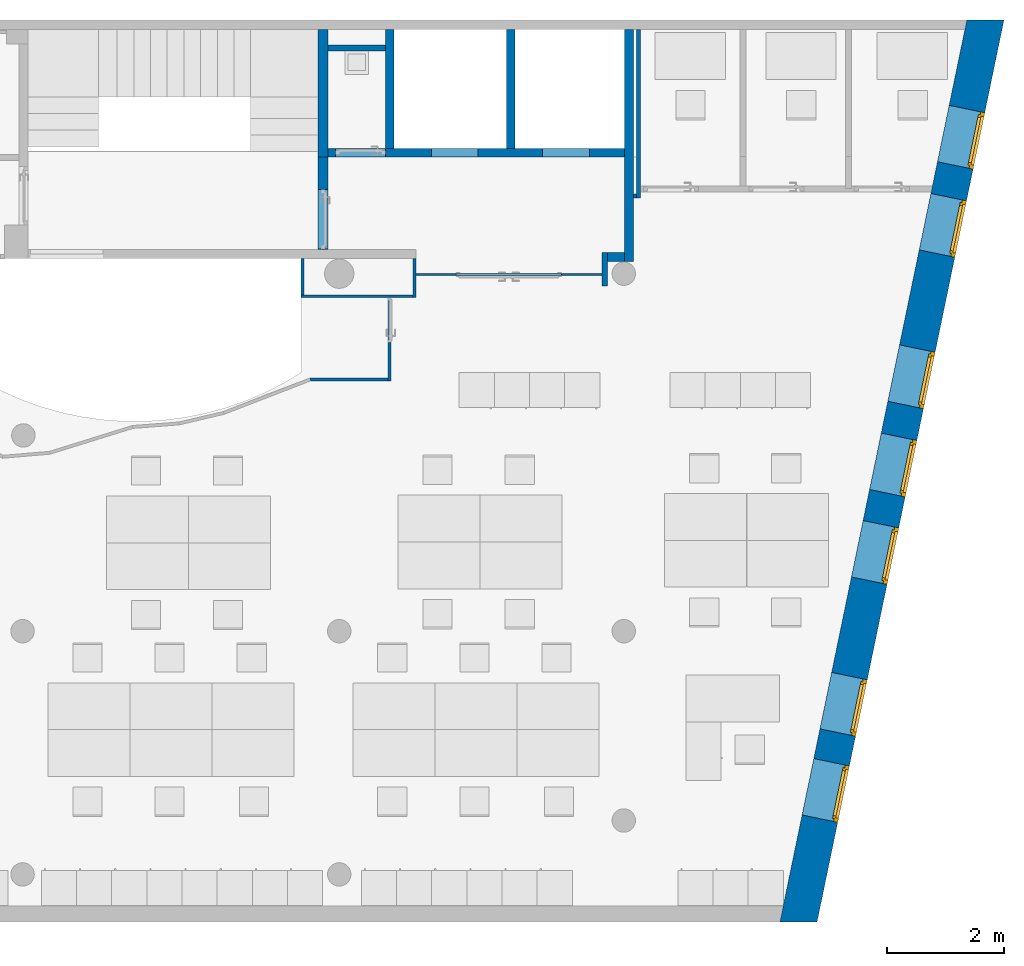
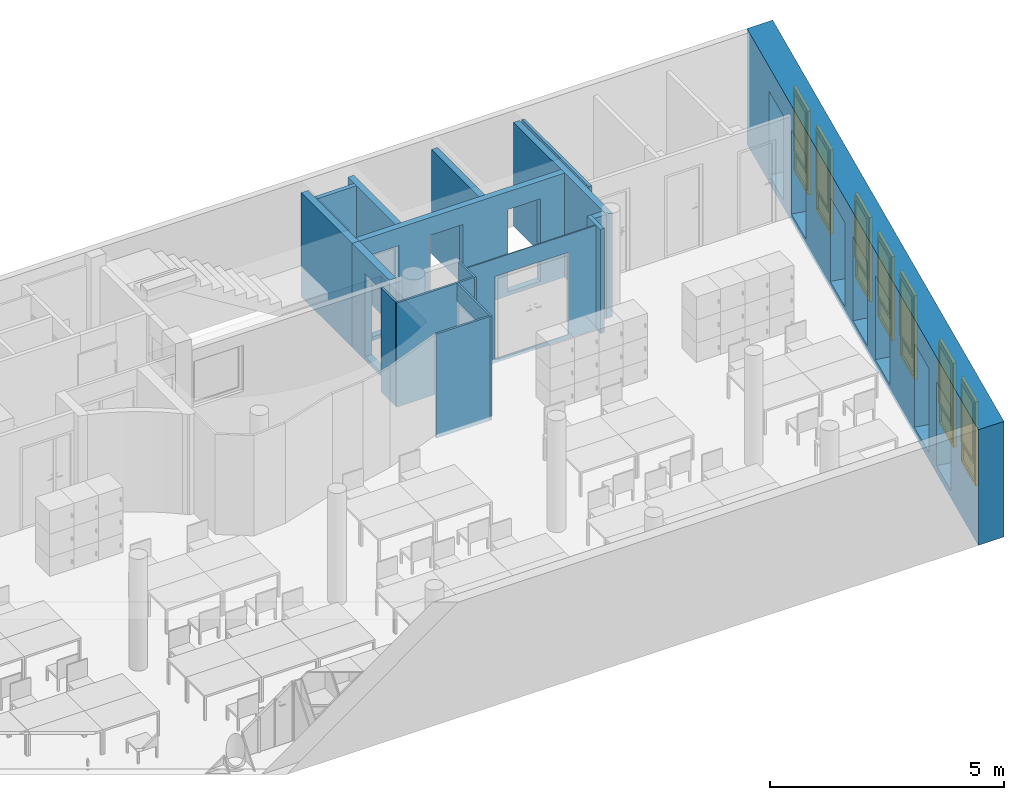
"""IFC4 building model written with IfcOpenShell, lengths in metres."""

from ifc_helpers import new_model, entity, si_unit, converted_unit, derived_unit, frame, frame_2d, origin, origin_with_axes, place, context, subcontext, project, spatial, polyline, rectangle, outline, extrude, closed_shell, open_shell, surface_model, source, transform, mapped, material, layer, layer_set, layer_usage, type_object, element, fill, save


model = new_model("IFC4")

# Units and contexts
model_context = context("Model", 3, precision=1e-05, world=origin())
body_context = subcontext(model_context, "Body", "Model", "MODEL_VIEW")
ifc_project = project(units=[si_unit("LENGTHUNIT", "METRE"), si_unit("AREAUNIT", "SQUARE_METRE"), si_unit("VOLUMEUNIT", "CUBIC_METRE"), si_unit("MASSUNIT", "GRAM", prefix="KILO"), converted_unit("PLANEANGLEUNIT", "DEGREE", entity("IfcPlaneAngleMeasure", 0.0174532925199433), si_unit("PLANEANGLEUNIT", "RADIAN"), dimensions=[0, 0, 0, 0, 0, 0, 0]), derived_unit("THERMALTRANSMITTANCEUNIT", [(si_unit("POWERUNIT", "WATT"), 1), (si_unit("THERMODYNAMICTEMPERATUREUNIT", "KELVIN"), -1), (si_unit("LENGTHUNIT", "METRE"), -2)]), derived_unit("VOLUMETRICFLOWRATEUNIT", [(si_unit("LENGTHUNIT", "METRE"), 3), (converted_unit("TIMEUNIT", "hour", entity("IfcTimeMeasure", 3600.0), si_unit("TIMEUNIT", "SECOND"), dimensions=[0, 0, 1, 0, 0, 0, 0]), -1), (si_unit("LENGTHUNIT", "METRE"), -1)])], contexts=[model_context])

# Building, storeys
building_placement = place(None, origin())
building = spatial("IfcBuilding", under=ifc_project, at=building_placement, Name="HABITATGE PLURIFAMILIAR", CompositionType="ELEMENT")
storey_1_placement = place(building_placement, frame((0.0, 0.0, 15.28)))
storey_1 = spatial("IfcBuildingStorey", under=building, at=storey_1_placement, Name="PLANTA QUARTA", CompositionType="ELEMENT", Elevation=15.28)
storey_2_placement = place(storey_1_placement, frame((0.0, 0.0, 12.27)))
storey_2 = spatial("IfcBuildingStorey", under=storey_1, at=storey_2_placement, Name="NOU", CompositionType="PARTIAL")

# Walls
ifc_material_1 = material()
ifc_layer_1 = layer(ifc_material_1, 0.15)
ifc_layer_set_1 = layer_set([ifc_layer_1])
ifc_layer_usage_1 = layer_usage(ifc_layer_set_1, "AXIS2", "POSITIVE", 0.0)
wall_1_placement = place(storey_2_placement, frame((419.136984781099, 26.0394598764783, -12.37), z_axis=(0.0, 0.0, 1.0), x_axis=(0.0, 1.0, 0.0)))
element("IfcWall", 1, at=wall_1_placement, inside=storey_2, material=ifc_layer_usage_1, Name="Evans P4", context=body_context, shape_type="SweptSolid", body=[
    extrude(rectangle(XDim=2.02878802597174, YDim=0.15, at=frame_2d((1.01439401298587, 0.075), x_axis=(1.0, 0.0))), origin_with_axes(), (0.0, 0.0, 1.0), 2.71),
])
ifc_material_2 = material()
ifc_layer_2 = layer(ifc_material_2, 0.15)
ifc_layer_set_2 = layer_set([ifc_layer_2])
ifc_layer_usage_2 = layer_usage(ifc_layer_set_2, "AXIS2", "POSITIVE", 0.0)
wall_2_placement = place(storey_2_placement, frame((417.074691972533, 26.0394598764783, -12.37), z_axis=(0.0, 0.0, 1.0), x_axis=(0.0, 1.0, 0.0)))
element("IfcWall", 2, at=wall_2_placement, inside=storey_2, material=ifc_layer_usage_2, Name="Evans P4", context=body_context, shape_type="SweptSolid", body=[
    extrude(rectangle(XDim=2.02878802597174, YDim=0.15, at=frame_2d((1.01439401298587, 0.075), x_axis=(1.0, 0.0))), origin_with_axes(), (0.0, 0.0, 1.0), 2.71),
])
ifc_material_3 = material()
ifc_layer_3 = layer(ifc_material_3, 0.1)
ifc_layer_set_3 = layer_set([ifc_layer_3])
ifc_layer_usage_3 = layer_usage(ifc_layer_set_3, "AXIS2", "POSITIVE", 0.0)
wall_3_placement = place(storey_2_placement, frame((415.946984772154, 27.6994598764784, -12.37)))
element("IfcWall", 3, at=wall_3_placement, inside=storey_2, material=ifc_layer_usage_3, Name="Evans P4", context=body_context, shape_type="SweptSolid", body=[
    extrude(rectangle(XDim=0.977707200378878, YDim=0.1, at=frame_2d((0.488853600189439, 0.05), x_axis=(1.0, 0.0))), origin_with_axes(), (0.0, 0.0, 1.0), 2.71),
])
ifc_material_4 = material()
ifc_layer_4 = layer(ifc_material_4, 0.1)
ifc_layer_set_4 = layer_set([ifc_layer_4])
ifc_layer_usage_4 = layer_usage(ifc_layer_set_4, "AXIS2", "POSITIVE", 0.0)
wall_4_placement = place(storey_2_placement, frame((420.716984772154, 23.691761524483, -12.37), z_axis=(0.0, 0.0, 1.0), x_axis=(0.0, 1.0, 0.0)))
element("IfcWall", 4, at=wall_4_placement, inside=storey_2, material=ifc_layer_usage_4, Name="Evans P4", context=body_context, shape_type="SweptSolid", body=[
    extrude(rectangle(XDim=0.567698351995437, YDim=0.1, at=frame_2d((0.283849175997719, 0.05), x_axis=(1.0, 0.0))), origin_with_axes(), (0.0, 0.0, 1.0), 2.71),
])
ifc_material_5 = material()
ifc_layer_5 = layer(ifc_material_5, 0.15)
ifc_layer_set_5 = layer_set([ifc_layer_5])
ifc_layer_usage_5 = layer_usage(ifc_layer_set_5, "AXIS2", "POSITIVE", 0.0)
wall_5_placement = place(storey_2_placement, frame((421.006984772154, 24.2594598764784, -12.37), z_axis=(0.0, 0.0, 1.0), x_axis=(-1.0, 0.0, 0.0)))
element("IfcWall", 5, at=wall_5_placement, inside=storey_2, material=ifc_layer_usage_5, Name="Evans P4", context=body_context, shape_type="SweptSolid", body=[
    extrude(rectangle(XDim=0.289999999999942, YDim=0.15, at=frame_2d((0.144999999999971, 0.075), x_axis=(1.0, 0.0))), origin_with_axes(), (0.0, 0.0, 1.0), 2.71),
])
ifc_material_6 = material()
ifc_layer_6 = layer(ifc_material_6, 0.15)
ifc_layer_set_6 = layer_set([ifc_layer_6])
ifc_layer_usage_6 = layer_usage(ifc_layer_set_6, "AXIS2", "POSITIVE", 0.0)
wall_6_placement = place(storey_2_placement, frame((421.006984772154, 28.06824790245, -12.37), z_axis=(0.0, 0.0, 1.0), x_axis=(0.0, -1.0, 0.0)))
element("IfcWall", 6, at=wall_6_placement, inside=storey_2, material=ifc_layer_usage_6, Name="Evans P4", context=body_context, shape_type="SweptSolid", body=[
    extrude(rectangle(XDim=3.95878802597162, YDim=0.15, at=frame_2d((1.97939401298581, 0.075), x_axis=(1.0, 0.0))), origin_with_axes(), (0.0, 0.0, 1.0), 2.71),
])
ifc_material_7 = material()
ifc_layer_7 = layer(ifc_material_7, 0.07)
ifc_layer_set_7 = layer_set([ifc_layer_7])
ifc_layer_usage_7 = layer_usage(ifc_layer_set_7, "AXIS2", "POSITIVE", 0.0)
wall_7_placement = place(storey_2_placement, frame((421.276984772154, 25.1894598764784, -12.37), z_axis=(0.0, 0.0, 1.0), x_axis=(0.0, 1.0, 0.0)))
element("IfcWall", 7, at=wall_7_placement, inside=storey_2, material=ifc_layer_usage_7, Name="Evans P4", context=body_context, shape_type="SweptSolid", body=[
    extrude(rectangle(XDim=2.87878802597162, YDim=0.07, at=frame_2d((1.43939401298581, 0.035), x_axis=(1.0, 0.0))), origin_with_axes(), (0.0, 0.0, 1.0), 2.71),
])
ifc_material_8 = material()
ifc_layer_8 = layer(ifc_material_8, 0.07)
ifc_layer_set_8 = layer_set([ifc_layer_8])
ifc_layer_usage_8 = layer_usage(ifc_layer_set_8, "AXIS2", "POSITIVE", 0.0)
wall_8_placement = place(storey_2_placement, frame((421.206984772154, 25.2594598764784, -12.37), z_axis=(0.0, 0.0, 1.0), x_axis=(-1.0, 0.0, 0.0)))
element("IfcWall", 8, at=wall_8_placement, inside=storey_2, material=ifc_layer_usage_8, Name="Evans P4", context=body_context, shape_type="SweptSolid", body=[
    extrude(rectangle(XDim=0.0500000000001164, YDim=0.07, at=frame_2d((0.0250000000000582, 0.035), x_axis=(1.0, 0.0))), origin_with_axes(), (0.0, 0.0, 1.0), 2.71),
])
ifc_material_9 = material()
ifc_layer_9 = layer(ifc_material_9, 0.05)
ifc_layer_set_9 = layer_set([ifc_layer_9])
ifc_layer_usage_9 = layer_usage(ifc_layer_set_9, "AXIS2", "POSITIVE", 0.0)
wall_9_placement = place(storey_2_placement, frame((417.446984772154, 23.4894598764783, -12.37), z_axis=(0.0, 0.0, 1.0), x_axis=(0.0, 1.0, 0.0)))
element("IfcWall", 9, at=wall_9_placement, inside=storey_2, material=ifc_layer_usage_9, Name="Evans P4", context=body_context, shape_type="SweptSolid", body=[
    extrude(rectangle(XDim=0.669999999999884, YDim=0.05, at=frame_2d((0.334999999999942, 0.025), x_axis=(1.0, 0.0))), origin_with_axes(), (0.0, 0.0, 1.0), 2.71),
])
ifc_material_10 = material()
ifc_layer_10 = layer(ifc_material_10, 0.05)
ifc_layer_set_10 = layer_set([ifc_layer_10])
ifc_layer_usage_10 = layer_usage(ifc_layer_set_10, "AXIS2", "POSITIVE", 0.0)
wall_10_placement = place(storey_2_placement, frame((415.486984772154, 23.4894598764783, -12.37)))
element("IfcWall", 10, at=wall_10_placement, inside=storey_2, material=ifc_layer_usage_10, Name="Evans P4", context=body_context, shape_type="SweptSolid", body=[
    extrude(rectangle(XDim=1.91, YDim=0.05, at=frame_2d((0.955, 0.025), x_axis=(1.0, 0.0))), origin_with_axes(), (0.0, 0.0, 1.0), 2.71),
])
ifc_material_11 = material()
ifc_layer_11 = layer(ifc_material_11, 0.05)
ifc_layer_set_11 = layer_set([ifc_layer_11])
ifc_layer_usage_11 = layer_usage(ifc_layer_set_11, "AXIS2", "POSITIVE", 0.0)
wall_11_placement = place(storey_2_placement, frame((415.486984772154, 24.1594598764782, -12.37), z_axis=(0.0, 0.0, 1.0), x_axis=(0.0, -1.0, 0.0)))
element("IfcWall", 11, at=wall_11_placement, inside=storey_2, material=ifc_layer_usage_11, Name="Evans P4", context=body_context, shape_type="SweptSolid", body=[
    extrude(rectangle(XDim=0.619999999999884, YDim=0.05, at=frame_2d((0.309999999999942, 0.025), x_axis=(1.0, 0.0))), origin_with_axes(), (0.0, 0.0, 1.0), 2.71),
])

# Wall, opening
ifc_material_12 = material()
ifc_layer_12 = layer(ifc_material_12, 0.03)
ifc_layer_set_12 = layer_set([ifc_layer_12])
ifc_layer_usage_12 = layer_usage(ifc_layer_set_12, "AXIS2", "POSITIVE", 0.0)
wall_12_placement = place(storey_2_placement, frame((420.616984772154, 23.8994598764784, -12.37), z_axis=(0.0, 0.0, 1.0), x_axis=(-1.0, 0.0, 0.0)))
wall_12 = element("IfcWall", 12, at=wall_12_placement, inside=storey_2, material=ifc_layer_usage_12, Name="Mampara P4", context=body_context, shape_type="SweptSolid", body=[
    extrude(rectangle(XDim=3.17000000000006, YDim=0.03, at=frame_2d((1.58500000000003, 0.015), x_axis=(1.0, 0.0))), origin_with_axes(), (0.0, 0.0, 1.0), 2.71),
])
opening_1_placement = place(wall_12_placement, frame((2.48586503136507, 0.03, 0.1), z_axis=(0.0, -1.0, 0.0), x_axis=(0.0, 0.0, 1.0)))
element("IfcOpeningElement", 13, at=opening_1_placement, cuts=wall_12, Name="Vano porta P4", ObjectType="Opening", context=body_context, shape_type="SweptSolid", body=[
    extrude(outline(polyline([(2.15, 1.79909702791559), (2.15, 0.0), (0.0, 0.0), (0.0, 1.79909702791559), (2.15, 1.79909702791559)])), origin_with_axes(), (0.0, 0.0, 1.0), 0.03),
])

ifc_material_13 = material()
ifc_layer_13 = layer(ifc_material_13, 0.05)
ifc_layer_set_13 = layer_set([ifc_layer_13])
ifc_layer_usage_13 = layer_usage(ifc_layer_set_13, "AXIS2", "POSITIVE", 0.0)
wall_13_placement = place(storey_2_placement, frame((417.016984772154, 22.0694598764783, -12.37), z_axis=(0.0, 0.0, 1.0), x_axis=(0.0, 1.0, 0.0)))
wall_13 = element("IfcWall", 14, at=wall_13_placement, inside=storey_2, material=ifc_layer_usage_13, Name="Mampara P4", context=body_context, shape_type="SweptSolid", body=[
    extrude(outline(polyline([(0.0, -0.05), (1.42, -0.05), (1.42, 0.0), (0.05, 0.0), (0.05, -0.00081139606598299), (0.0, -0.00081139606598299), (0.0, -0.05)])), frame((0.0, 0.05, 0.0), z_axis=(0.0, 0.0, 1.0), x_axis=(1.0, 0.0, 0.0)), (0.0, 0.0, 1.0), 2.71),
])
opening_2_placement = place(wall_13_placement, frame((1.42, 0.05, 0.1), z_axis=(0.0, -1.0, 0.0), x_axis=(0.0, 0.0, 1.0)))
element("IfcOpeningElement", 15, at=opening_2_placement, cuts=wall_13, Name="Vano porta P4", ObjectType="Opening", context=body_context, shape_type="SweptSolid", body=[
    extrude(outline(polyline([(2.15, 0.7675111), (2.15, 0.0), (0.0, 0.0), (0.0, 0.7675111), (2.15, 0.7675111)])), origin_with_axes(), (0.0, 0.0, 1.0), 0.05),
])

# Walls
wall_14_placement = place(storey_2_placement, frame((415.646984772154, 22.0694598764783, -12.37)))
element("IfcWall", 16, at=wall_14_placement, inside=storey_2, Name="Mampara P4", context=body_context, shape_type="SweptSolid", body=[
    extrude(outline(polyline([(0.0090293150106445, 0.0), (1.32984071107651, 0.0), (1.32984071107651, 0.05), (0.0, 0.05), (0.00934987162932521, 0.000123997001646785), (0.0090293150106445, 0.0)])), frame((-0.0090293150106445, 0.0, 0.0), z_axis=(0.0, 0.0, 1.0), x_axis=(1.0, 0.0, 0.0)), (0.0, 0.0, 1.0), 2.71),
    extrude(outline(polyline([(4.6678121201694e-05, 0.0), (0.000695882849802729, 0.000251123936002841), (0.0, 0.000251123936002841), (4.6678121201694e-05, 0.0)])), frame((-0.010029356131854, 0.0497488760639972, 0.0), z_axis=(0.0, 0.0, 1.0), x_axis=(1.0, 0.0, 0.0)), (0.0, 0.0, 1.0), 2.71),
])
ifc_material_14 = material()
ifc_layer_14 = layer(ifc_material_14, 0.17)
ifc_layer_set_14 = layer_set([ifc_layer_14])
ifc_layer_usage_14 = layer_usage(ifc_layer_set_14, "AXIS2", "POSITIVE", 0.0)
wall_15_placement = place(storey_2_placement, frame((415.776984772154, 28.0682478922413, -12.37), z_axis=(0.0, 0.0, 1.0), x_axis=(0.0, -1.0, 0.0)))
element("IfcWall", 17, at=wall_15_placement, inside=storey_2, material=ifc_layer_usage_14, Name="Evans P4", context=body_context, shape_type="SweptSolid", body=[
    extrude(rectangle(XDim=2.17878801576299, YDim=0.17, at=frame_2d((1.08939400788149, 0.085), x_axis=(1.0, 0.0))), origin_with_axes(), (0.0, 0.0, 1.0), 2.71),
])

# Wall, openings
ifc_material_15 = material()
ifc_layer_15 = layer(ifc_material_15, 0.15)
ifc_layer_set_15 = layer_set([ifc_layer_15])
ifc_layer_usage_15 = layer_usage(ifc_layer_set_15, "AXIS2", "POSITIVE", 0.0)
wall_16_placement = place(storey_2_placement, frame((415.946984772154, 25.8894598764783, -12.37)))
wall_16 = element("IfcWall", 18, at=wall_16_placement, inside=storey_2, material=ifc_layer_usage_15, Name="Evans P4", context=body_context, shape_type="SweptSolid", body=[
    extrude(rectangle(XDim=5.05999999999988, YDim=0.15, at=frame_2d((2.52999999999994, 0.075), x_axis=(1.0, 0.0))), origin_with_axes(), (0.0, 0.0, 1.0), 2.71),
])
opening_3_placement = place(wall_16_placement, frame((3.65999999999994, 0.0, 0.1), z_axis=(0.0, 1.0, 0.0), x_axis=(0.0, 0.0, 1.0)))
element("IfcOpeningElement", 19, at=opening_3_placement, cuts=wall_16, Name="Vano porta P4", ObjectType="Opening", context=body_context, shape_type="SweptSolid", body=[
    extrude(outline(polyline([(2.15, 0.800000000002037), (2.15, 0.0), (0.0, 0.0), (0.0, 0.800000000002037), (2.15, 0.800000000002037)])), origin_with_axes(), (0.0, 0.0, 1.0), 0.15),
])
opening_4_placement = place(wall_16_placement, frame((1.76, 0.0, 0.1), z_axis=(0.0, 1.0, 0.0), x_axis=(0.0, 0.0, 1.0)))
element("IfcOpeningElement", 20, at=opening_4_placement, cuts=wall_16, Name="Vano porta P4", ObjectType="Opening", context=body_context, shape_type="SweptSolid", body=[
    extrude(outline(polyline([(2.15, 0.800000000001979), (2.15, 0.0), (0.0, 0.0), (0.0, 0.800000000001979), (2.15, 0.800000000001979)])), origin_with_axes(), (0.0, 0.0, 1.0), 0.15),
])
opening_5_placement = place(wall_16_placement, frame((0.130000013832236, 0.0, 0.1), z_axis=(0.0, 1.0, 0.0), x_axis=(0.0, 0.0, 1.0)))
element("IfcOpeningElement", 21, at=opening_5_placement, cuts=wall_16, Name="Vano porta P4", ObjectType="Opening", context=body_context, shape_type="SweptSolid", body=[
    extrude(outline(polyline([(2.15, 0.847707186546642), (2.15, 0.0), (0.0, 0.0), (0.0, 0.847707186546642), (2.15, 0.847707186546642)])), origin_with_axes(), (0.0, 0.0, 1.0), 0.15),
])

# Wall, openings, doors
ifc_material_16 = material()
ifc_layer_16 = layer(ifc_material_16, 0.619999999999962)
ifc_layer_set_16 = layer_set([ifc_layer_16])
ifc_layer_usage_16 = layer_usage(ifc_layer_set_16, "AXIS2", "POSITIVE", 0.0)
wall_17_placement = place(storey_2_placement, frame((424.290656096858, 12.8406121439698, -12.37), z_axis=(0.0, 0.0, 1.0), x_axis=(0.202927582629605, 0.97919374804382, 0.0)))
wall_17 = element("IfcWall", 22, at=wall_17_placement, inside=storey_2, material=ifc_layer_usage_16, Name="Façana sur-est P4", context=body_context, shape_type="SweptSolid", body=[
    extrude(outline(polyline([(0.128488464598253, -0.620000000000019), (15.8430861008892, -0.62000000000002), (15.7145976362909, 0.0), (0.0, 0.0), (0.128488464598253, -0.620000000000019)])), frame((-0.128488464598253, 0.620000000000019, 0.0), z_axis=(0.0, 0.0, 1.0), x_axis=(1.0, 0.0, 0.0)), (0.0, 0.0, 1.0), 3.01),
])
opening_6_placement = place(wall_17_placement, frame((11.5797829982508, 0.0, 0.19), z_axis=(1.76031232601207e-14, 1.0, 0.0), x_axis=(0.0, 0.0, 1.0)))
opening_6 = element("IfcOpeningElement", 23, at=opening_6_placement, cuts=wall_17, Name="Vano finestra P4", ObjectType="Opening", context=body_context, shape_type="SweptSolid", body=[
    extrude(outline(polyline([(2.19, 0.983524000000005), (2.19, 0.0), (0.0, 0.0), (0.0, 0.983524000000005), (2.19, 0.983524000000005)])), origin_with_axes(), (0.0, 0.0, 1.0), 0.620000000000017),
])
opening_7_placement = place(wall_17_placement, frame((8.94165294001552, 0.0, 0.19), z_axis=(1.46692693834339e-14, 1.0, 0.0), x_axis=(0.0, 0.0, 1.0)))
opening_7 = element("IfcOpeningElement", 24, at=opening_7_placement, cuts=wall_17, Name="Vano finestra P4", ObjectType="Opening", context=body_context, shape_type="SweptSolid", body=[
    extrude(outline(polyline([(2.19, 0.983524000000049), (2.19, 0.0), (0.0, 0.0), (0.0, 0.983524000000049), (2.19, 0.983524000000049)])), origin_with_axes(), (0.0, 0.0, 1.0), 0.620000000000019),
])
opening_8_placement = place(wall_17_placement, frame((5.88076226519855, 0.0, 0.19), z_axis=(2.49377579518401e-14, 1.0, 0.0), x_axis=(0.0, 0.0, 1.0)))
opening_8 = element("IfcOpeningElement", 25, at=opening_8_placement, cuts=wall_17, Name="Vano finestra P4", ObjectType="Opening", context=body_context, shape_type="SweptSolid", body=[
    extrude(outline(polyline([(2.19, 0.983524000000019), (2.19, 0.0), (0.0, 0.0), (0.0, 0.983524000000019), (2.19, 0.983524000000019)])), origin_with_axes(), (0.0, 0.0, 1.0), 0.61999999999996),
])
opening_9_placement = place(wall_17_placement, frame((13.1155663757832, 0.0, 0.19), z_axis=(2.05369771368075e-14, 1.0, 0.0), x_axis=(0.0, 0.0, 1.0)))
opening_9 = element("IfcOpeningElement", 26, at=opening_9_placement, cuts=wall_17, Name="Vano finestra P4", ObjectType="Opening", context=body_context, shape_type="SweptSolid", body=[
    extrude(outline(polyline([(2.19, 0.983524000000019), (2.19, 0.0), (0.0, 0.0), (0.0, 0.983524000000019), (2.19, 0.983524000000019)])), origin_with_axes(), (0.0, 0.0, 1.0), 0.620000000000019),
])
opening_10_placement = place(wall_17_placement, frame((7.40452537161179, 0.0, 0.19), z_axis=(2.34708310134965e-14, 1.0, 0.0), x_axis=(0.0, 0.0, 1.0)))
opening_10 = element("IfcOpeningElement", 27, at=opening_10_placement, cuts=wall_17, Name="Vano finestra P4", ObjectType="Opening", context=body_context, shape_type="SweptSolid", body=[
    extrude(outline(polyline([(2.19, 0.983524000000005), (2.19, 0.0), (0.0, 0.0), (0.0, 0.983524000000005), (2.19, 0.983524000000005)])), origin_with_axes(), (0.0, 0.0, 1.0), 0.619999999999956),
])
opening_11_placement = place(wall_17_placement, frame((3.23395357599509, 0.0, 0.19), z_axis=(2.27373675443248e-14, 1.0, 0.0), x_axis=(0.0, 0.0, 1.0)))
opening_11 = element("IfcOpeningElement", 28, at=opening_11_placement, cuts=wall_17, Name="Vano finestra P4", ObjectType="Opening", context=body_context, shape_type="SweptSolid", body=[
    extrude(outline(polyline([(2.19, 0.98352399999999), (2.19, 0.0), (0.0, 0.0), (0.0, 0.98352399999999), (2.19, 0.98352399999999)])), origin_with_axes(), (0.0, 0.0, 1.0), 0.619999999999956),
])
opening_12_placement = place(wall_17_placement, frame((1.73314690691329, 0.0, 0.19), z_axis=(2.4204294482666e-14, 1.0, 0.0), x_axis=(0.0, 0.0, 1.0)))
opening_12 = element("IfcOpeningElement", 29, at=opening_12_placement, cuts=wall_17, Name="Vano finestra P4", ObjectType="Opening", context=body_context, shape_type="SweptSolid", body=[
    extrude(outline(polyline([(2.19, 0.983524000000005), (2.19, 0.0), (0.0, 0.0), (0.0, 0.983524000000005), (2.19, 0.983524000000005)])), origin_with_axes(), (0.0, 0.0, 1.0), 0.620000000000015),
])
door_type_1 = type_object("IfcDoorType", Name="Finestra P4", OperationType="NOTDEFINED", ParameterTakesPrecedence=False, PredefinedType="DOOR")
shared_shape = source(origin_with_axes(), body_context, "Body", "SurfaceModel", [
    surface_model("IfcShellBasedSurfaceModel", [(0.0, 0.0700000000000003, 2.19), (0.0, 0.07, 0.0), (0.07, 0.07, 0.0), (0.07, 0.0700000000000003, 2.19), (0.0, 0.0, 0.0), (0.0, 0.0, 2.19), (0.07, 0.0, 2.19), (0.07, 0.0, 0.0)], [closed_shell([[[0, 1, 2, 3]], [[4, 5, 6, 7]], [[1, 0, 5, 4]], [[2, 1, 4, 7]], [[3, 2, 7, 6]], [[0, 3, 6, 5]]], orient=[[False], [False], [False], [False], [False], [False]])]),
    surface_model("IfcShellBasedSurfaceModel", [(0.913524, 0.0700000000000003, 2.19), (0.913524, 0.07, 0.0), (0.983524, 0.07, 0.0), (0.983524, 0.0700000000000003, 2.19), (0.913524, 0.0, 0.0), (0.913524, 0.0, 2.19), (0.983524, 0.0, 2.19), (0.983524, 0.0, 0.0)], [closed_shell([[[0, 1, 2, 3]], [[4, 5, 6, 7]], [[1, 0, 5, 4]], [[2, 1, 4, 7]], [[3, 2, 7, 6]], [[0, 3, 6, 5]]], orient=[[False], [False], [False], [False], [False], [False]])]),
    surface_model("IfcShellBasedSurfaceModel", [(0.07, 0.07, 0.07), (0.07, 0.07, 0.0), (0.913524, 0.07, 0.0), (0.913524, 0.07, 0.07), (0.07, 0.0, 0.0), (0.07, 0.0, 0.07), (0.913524, 0.0, 0.07), (0.913524, 0.0, 0.0)], [closed_shell([[[0, 1, 2, 3]], [[4, 5, 6, 7]], [[1, 0, 5, 4]], [[2, 1, 4, 7]], [[3, 2, 7, 6]], [[0, 3, 6, 5]]], orient=[[False], [False], [False], [False], [False], [False]])]),
    surface_model("IfcShellBasedSurfaceModel", [(0.07, 0.0700000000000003, 2.19), (0.07, 0.0700000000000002, 2.12), (0.913524, 0.0700000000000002, 2.12), (0.913524, 0.0700000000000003, 2.19), (0.07, 0.0, 2.12), (0.07, 0.0, 2.19), (0.913524, 0.0, 2.19), (0.913524, 0.0, 2.12)], [closed_shell([[[0, 1, 2, 3]], [[4, 5, 6, 7]], [[1, 0, 5, 4]], [[2, 1, 4, 7]], [[3, 2, 7, 6]], [[0, 3, 6, 5]]], orient=[[False], [False], [False], [False], [False], [False]])]),
    surface_model("IfcShellBasedSurfaceModel", [(0.07, 0.035, 0.07), (0.913524, 0.035, 0.07), (0.913524, 0.0350000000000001, 0.57), (0.07, 0.0350000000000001, 0.57)], [open_shell([[[0, 1, 2, 3]]], orient=[[False]])]),
    surface_model("IfcShellBasedSurfaceModel", [(0.05, 0.1, 2.14), (0.05, 0.1, 0.551), (0.1, 0.1, 0.551), (0.1, 0.1, 2.14), (0.05, 0.0500000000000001, 0.551), (0.05, 0.0500000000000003, 2.14), (0.1, 0.0500000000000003, 2.14), (0.1, 0.0500000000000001, 0.551)], [closed_shell([[[0, 1, 2, 3]], [[4, 5, 6, 7]], [[1, 0, 5, 4]], [[2, 1, 4, 7]], [[3, 2, 7, 6]], [[0, 3, 6, 5]]], orient=[[False], [False], [False], [False], [False], [False]])]),
    surface_model("IfcShellBasedSurfaceModel", [(0.883524, 0.1, 2.14), (0.883524, 0.1, 0.551), (0.933524, 0.1, 0.551), (0.933524, 0.1, 2.14), (0.883524, 0.0500000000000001, 0.551), (0.883524, 0.0500000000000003, 2.14), (0.933524, 0.0500000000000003, 2.14), (0.933524, 0.0500000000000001, 0.551)], [closed_shell([[[0, 1, 2, 3]], [[4, 5, 6, 7]], [[1, 0, 5, 4]], [[2, 1, 4, 7]], [[3, 2, 7, 6]], [[0, 3, 6, 5]]], orient=[[False], [False], [False], [False], [False], [False]])]),
    surface_model("IfcShellBasedSurfaceModel", [(0.1, 0.1, 0.601), (0.1, 0.1, 0.551), (0.883524, 0.1, 0.551), (0.883524, 0.1, 0.601), (0.1, 0.0500000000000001, 0.551), (0.1, 0.0500000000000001, 0.601), (0.883524, 0.0500000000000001, 0.601), (0.883524, 0.0500000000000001, 0.551)], [closed_shell([[[0, 1, 2, 3]], [[4, 5, 6, 7]], [[1, 0, 5, 4]], [[2, 1, 4, 7]], [[3, 2, 7, 6]], [[0, 3, 6, 5]]], orient=[[False], [False], [False], [False], [False], [False]])]),
    surface_model("IfcShellBasedSurfaceModel", [(0.1, 0.1, 2.14), (0.1, 0.1, 2.09), (0.883524, 0.1, 2.09), (0.883524, 0.1, 2.14), (0.1, 0.0500000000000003, 2.09), (0.1, 0.0500000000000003, 2.14), (0.883524, 0.0500000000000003, 2.14), (0.883524, 0.0500000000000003, 2.09)], [closed_shell([[[0, 1, 2, 3]], [[4, 5, 6, 7]], [[1, 0, 5, 4]], [[2, 1, 4, 7]], [[3, 2, 7, 6]], [[0, 3, 6, 5]]], orient=[[False], [False], [False], [False], [False], [False]])]),
    surface_model("IfcShellBasedSurfaceModel", [(0.1, 0.0750000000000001, 0.601), (0.883524, 0.0750000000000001, 0.601), (0.883524, 0.0750000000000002, 2.09), (0.1, 0.0750000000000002, 2.09)], [open_shell([[[0, 1, 2, 3]]], orient=[[False]])]),
])
door_1_placement = place(opening_6_placement, frame((0.0, 0.0, 0.0), z_axis=(1.0, 0.0, 0.0), x_axis=(0.0, 1.00000000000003, -7.07767178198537e-15)))
door_1 = element("IfcDoor", 30, at=door_1_placement, inside=storey_2, type_object=door_type_1, Name="Finestra P4", OverallHeight=2.19, OverallWidth=0.98352, context=body_context, shape_type="MappedRepresentation", body=[
    mapped(shared_shape, transform((0.0, 0.0, 0.0), x_axis=(1.0, 0.0, 0.0), y_axis=(0.0, 1.0, 0.0), z_axis=(0.0, 0.0, 1.0), scale=1.00000000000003)),
])
fill(opening_6, door_1)
door_type_2 = type_object("IfcDoorType", Name="Finestra P4", OperationType="NOTDEFINED", ParameterTakesPrecedence=False, PredefinedType="DOOR")
door_2_placement = place(opening_7_placement, frame((0.0, 0.0, 0.0), z_axis=(1.0, 0.0, 0.0), x_axis=(0.0, 1.00000000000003, -6.85562717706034e-15)))
door_2 = element("IfcDoor", 31, at=door_2_placement, inside=storey_2, type_object=door_type_2, Name="Finestra P4", OverallHeight=2.19, OverallWidth=0.98352, context=body_context, shape_type="MappedRepresentation", body=[
    mapped(shared_shape, transform((0.0, 0.0, 0.0), x_axis=(1.0, 0.0, 0.0), y_axis=(0.0, 1.0, 0.0), z_axis=(0.0, 0.0, 1.0), scale=1.00000000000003)),
])
fill(opening_7, door_2)
door_type_3 = type_object("IfcDoorType", Name="Finestra P4", OperationType="NOTDEFINED", ParameterTakesPrecedence=False, PredefinedType="DOOR")
door_3_placement = place(opening_8_placement, frame((0.0, 0.0, 0.0), z_axis=(1.0, 0.0, 0.0), x_axis=(0.0, 1.0, 1.13797860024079e-15)))
door_3 = element("IfcDoor", 32, at=door_3_placement, inside=storey_2, type_object=door_type_3, Name="Finestra P4", OverallHeight=2.19, OverallWidth=0.98352, context=body_context, shape_type="MappedRepresentation", body=[
    mapped(shared_shape, transform((0.0, 0.0, 0.0), x_axis=(1.0, 0.0, 0.0), y_axis=(0.0, 1.0, 0.0), z_axis=(0.0, 0.0, 1.0), scale=1.00000000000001)),
])
fill(opening_8, door_3)
door_type_4 = type_object("IfcDoorType", Name="Finestra P4", OperationType="NOTDEFINED", ParameterTakesPrecedence=False, PredefinedType="DOOR")
door_4_placement = place(opening_9_placement, frame((0.0, 0.0, 0.0), z_axis=(1.0, 0.0, 0.0), x_axis=(0.0, 1.00000000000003, -5.96189764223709e-14)))
door_4 = element("IfcDoor", 33, at=door_4_placement, inside=storey_2, type_object=door_type_4, Name="Finestra P4", OverallHeight=2.19, OverallWidth=0.98352, context=body_context, shape_type="MappedRepresentation", body=[
    mapped(shared_shape, transform((0.0, 0.0, 0.0), x_axis=(1.0, 0.0, 0.0), y_axis=(0.0, 1.0, 0.0), z_axis=(0.0, 0.0, 1.0), scale=1.00000000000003)),
])
fill(opening_9, door_4)
door_type_5 = type_object("IfcDoorType", Name="Finestra P4", OperationType="NOTDEFINED", ParameterTakesPrecedence=False, PredefinedType="DOOR")
door_5_placement = place(opening_10_placement, frame((0.0, 0.0, 0.0), z_axis=(1.0, 0.0, 0.0), x_axis=(0.0, 1.00000000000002, -1.22124532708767e-15)))
door_5 = element("IfcDoor", 34, at=door_5_placement, inside=storey_2, type_object=door_type_5, Name="Finestra P4", OverallHeight=2.19, OverallWidth=0.98352, context=body_context, shape_type="MappedRepresentation", body=[
    mapped(shared_shape, transform((0.0, 0.0, 0.0), x_axis=(1.0, 0.0, 0.0), y_axis=(0.0, 1.0, 0.0), z_axis=(0.0, 0.0, 1.0), scale=1.00000000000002)),
])
fill(opening_10, door_5)
door_type_6 = type_object("IfcDoorType", Name="Finestra P4", OperationType="NOTDEFINED", ParameterTakesPrecedence=False, PredefinedType="DOOR")
door_6_placement = place(opening_11_placement, frame((0.0, 0.0, 0.0), z_axis=(1.0, 0.0, 0.0), x_axis=(0.0, 1.00000000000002, -2.38697950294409e-15)))
door_6 = element("IfcDoor", 35, at=door_6_placement, inside=storey_2, type_object=door_type_6, Name="Finestra P4", OverallHeight=2.19, OverallWidth=0.98352, context=body_context, shape_type="MappedRepresentation", body=[
    mapped(shared_shape, transform((0.0, 0.0, 0.0), x_axis=(1.0, 0.0, 0.0), y_axis=(0.0, 1.0, 0.0), z_axis=(0.0, 0.0, 1.0), scale=1.00000000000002)),
])
fill(opening_11, door_6)
door_type_7 = type_object("IfcDoorType", Name="Finestra P4", OperationType="NOTDEFINED", ParameterTakesPrecedence=False, PredefinedType="DOOR")
door_7_placement = place(opening_12_placement, frame((0.0, 0.0, 0.0), z_axis=(1.0, 0.0, 0.0), x_axis=(0.0, 1.00000000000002, 1.74860126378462e-15)))
door_7 = element("IfcDoor", 36, at=door_7_placement, inside=storey_2, type_object=door_type_7, Name="Finestra P4", OverallHeight=2.19, OverallWidth=0.98352, context=body_context, shape_type="MappedRepresentation", body=[
    mapped(shared_shape, transform((0.0, 0.0, 0.0), x_axis=(1.0, 0.0, 0.0), y_axis=(0.0, 1.0, 0.0), z_axis=(0.0, 0.0, 1.0), scale=1.00000000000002)),
])
fill(opening_12, door_7)

# Wall, opening
ifc_material_17 = material()
ifc_layer_17 = layer(ifc_material_17, 0.17)
ifc_layer_set_17 = layer_set([ifc_layer_17])
ifc_layer_usage_17 = layer_usage(ifc_layer_set_17, "AXIS2", "POSITIVE", 0.0)
wall_18_placement = place(storey_2_placement, frame((415.776984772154, 25.8894598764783, -12.37), z_axis=(0.0, 0.0, 1.0), x_axis=(0.0, -1.0, 0.0)))
wall_18 = element("IfcWall", 37, at=wall_18_placement, inside=storey_2, material=ifc_layer_usage_17, Name="Evans P4", context=body_context, shape_type="SweptSolid", body=[
    extrude(rectangle(XDim=1.58000000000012, YDim=0.17, at=frame_2d((0.790000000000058, 0.085), x_axis=(1.0, 0.0))), origin_with_axes(), (0.0, 0.0, 1.0), 2.71),
])
opening_13_placement = place(wall_18_placement, frame((1.5706693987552, 0.17, 0.1), z_axis=(0.0, -1.0, 0.0), x_axis=(0.0, 0.0, 1.0)))
element("IfcOpeningElement", 38, at=opening_13_placement, cuts=wall_18, Name="Vano porta P4", ObjectType="Opening", context=body_context, shape_type="SweptSolid", body=[
    extrude(outline(polyline([(2.15, 1.0208737), (2.15, 0.0), (0.0, 0.0), (0.0, 1.0208737), (2.15, 1.0208737)])), origin_with_axes(), (0.0, 0.0, 1.0), 0.17),
])

save(model, "model.ifc")
